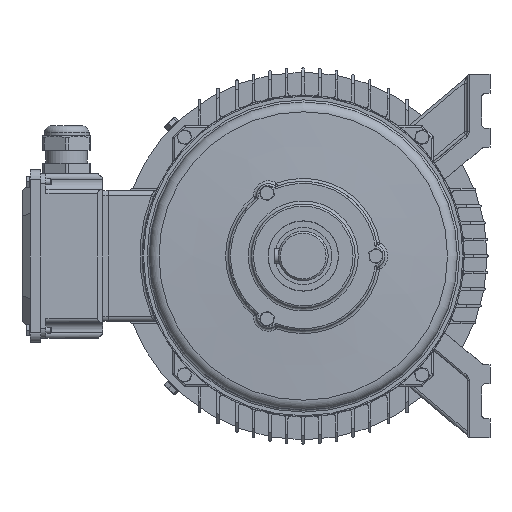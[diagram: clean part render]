
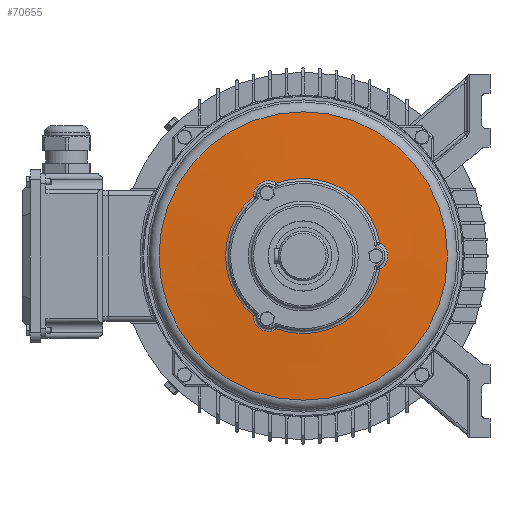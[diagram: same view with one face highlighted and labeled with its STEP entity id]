
A CAD part, left-side view. The second image highlights one B-rep face of the part: STEP entity #70655.
In plain terms, the highlighted conical face has half-angle 87 degrees and reference radius 110.25 mm.
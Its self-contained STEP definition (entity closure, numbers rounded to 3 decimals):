
#70436=CARTESIAN_POINT('',(136.149,47.992,-57.431));
#70437=VERTEX_POINT('',#70436);
#70445=CARTESIAN_POINT('',(136.149,25.741,-70.277));
#70446=VERTEX_POINT('',#70445);
#70447=CARTESIAN_POINT('',(136.149,47.992,-57.431));
#70448=CARTESIAN_POINT('',(136.211,48.041,-58.92));
#70449=CARTESIAN_POINT('',(136.321,47.676,-61.934));
#70450=CARTESIAN_POINT('',(136.437,45.794,-66.061));
#70451=CARTESIAN_POINT('',(136.497,42.727,-69.436));
#70452=CARTESIAN_POINT('',(136.498,37.478,-72.479));
#70453=CARTESIAN_POINT('',(136.378,31.212,-72.874));
#70454=CARTESIAN_POINT('',(136.211,27.006,-71.065));
#70455=CARTESIAN_POINT('',(136.149,25.741,-70.277));
#70456=B_SPLINE_CURVE_WITH_KNOTS('',3,(#70447,#70448,#70449,#70450,#70451,#70452,#70453,#70454,#70455),.UNSPECIFIED.,.F.,.U.,(4,1,1,1,1,1,4),(-3.136,-2.688,-2.24,-1.792,-1.344,-0.448,0.0),.UNSPECIFIED.);
#70457=EDGE_CURVE('',#70437,#70446,#70456,.T.);
#70561=CARTESIAN_POINT('',(136.149,-73.732,-12.847));
#70562=VERTEX_POINT('',#70561);
#70563=CARTESIAN_POINT('',(136.149,0.0,0.));
#70564=DIRECTION('',(-1.0,0.0,0.0));
#70565=DIRECTION('',(0.0,-1.0,0.0));
#70566=AXIS2_PLACEMENT_3D('',#70563,#70564,#70565);
#70567=CIRCLE('',#70566,74.843);
#70568=EDGE_CURVE('',#70446,#70562,#70567,.T.);
#70589=CARTESIAN_POINT('',(138.005,0.0,0.0));
#70590=DIRECTION('',(1.0,0.0,0.0));
#70591=DIRECTION('',(0.0,1.0,0.0));
#70592=AXIS2_PLACEMENT_3D('',#70589,#70590,#70591);
#70593=CONICAL_SURFACE('',#70592,110.25,87.);
#70594=CARTESIAN_POINT('',(139.513,139.023,0.0));
#70595=VERTEX_POINT('',#70594);
#70596=CARTESIAN_POINT('',(139.513,0.0,0.0));
#70597=DIRECTION('',(1.0,0.0,0.0));
#70598=DIRECTION('',(0.0,-1.0,0.0));
#70599=AXIS2_PLACEMENT_3D('',#70596,#70597,#70598);
#70600=CIRCLE('',#70599,139.023);
#70601=EDGE_CURVE('',#70595,#70595,#70600,.T.);
#70602=ORIENTED_EDGE('',*,*,#70601,.F.);
#70603=EDGE_LOOP('',(#70602));
#70604=FACE_OUTER_BOUND('',#70603,.T.);
#70605=ORIENTED_EDGE('',*,*,#70457,.F.);
#70606=CARTESIAN_POINT('',(136.149,47.992,57.431));
#70607=VERTEX_POINT('',#70606);
#70608=CARTESIAN_POINT('',(136.149,0.0,0.));
#70609=DIRECTION('',(-1.0,0.0,0.0));
#70610=DIRECTION('',(0.0,-1.0,0.0));
#70611=AXIS2_PLACEMENT_3D('',#70608,#70609,#70610);
#70612=CIRCLE('',#70611,74.843);
#70613=EDGE_CURVE('',#70607,#70437,#70612,.T.);
#70614=ORIENTED_EDGE('',*,*,#70613,.F.);
#70615=CARTESIAN_POINT('',(136.149,25.741,70.277));
#70616=VERTEX_POINT('',#70615);
#70617=CARTESIAN_POINT('',(136.149,25.741,70.277));
#70618=CARTESIAN_POINT('',(136.211,27.006,71.065));
#70619=CARTESIAN_POINT('',(136.321,29.799,72.255));
#70620=CARTESIAN_POINT('',(136.437,34.312,72.688));
#70621=CARTESIAN_POINT('',(136.497,38.773,71.72));
#70622=CARTESIAN_POINT('',(136.497,42.71,69.451));
#70623=CARTESIAN_POINT('',(136.438,45.78,66.076));
#70624=CARTESIAN_POINT('',(136.322,47.673,61.953));
#70625=CARTESIAN_POINT('',(136.211,48.041,58.92));
#70626=CARTESIAN_POINT('',(136.149,47.992,57.431));
#70627=B_SPLINE_CURVE_WITH_KNOTS('',3,(#70617,#70618,#70619,#70620,#70621,#70622,#70623,#70624,#70625,#70626),.UNSPECIFIED.,.F.,.U.,(4,1,1,1,1,1,1,4),(-3.136,-2.688,-2.24,-1.792,-1.344,-0.896,-0.448,0.0),.UNSPECIFIED.);
#70628=EDGE_CURVE('',#70616,#70607,#70627,.T.);
#70629=ORIENTED_EDGE('',*,*,#70628,.F.);
#70630=CARTESIAN_POINT('',(136.149,-73.732,12.847));
#70631=VERTEX_POINT('',#70630);
#70632=CARTESIAN_POINT('',(136.149,0.0,0.));
#70633=DIRECTION('',(-1.0,0.0,0.0));
#70634=DIRECTION('',(0.0,-1.0,0.0));
#70635=AXIS2_PLACEMENT_3D('',#70632,#70633,#70634);
#70636=CIRCLE('',#70635,74.843);
#70637=EDGE_CURVE('',#70631,#70616,#70636,.T.);
#70638=ORIENTED_EDGE('',*,*,#70637,.F.);
#70639=CARTESIAN_POINT('',(136.149,-73.732,-12.847));
#70640=CARTESIAN_POINT('',(136.211,-75.047,-12.145));
#70641=CARTESIAN_POINT('',(136.321,-77.475,-10.321));
#70642=CARTESIAN_POINT('',(136.437,-80.106,-6.629));
#70643=CARTESIAN_POINT('',(136.497,-81.498,-2.281));
#70644=CARTESIAN_POINT('',(136.497,-81.501,2.262));
#70645=CARTESIAN_POINT('',(136.438,-80.114,6.608));
#70646=CARTESIAN_POINT('',(136.322,-77.489,10.31));
#70647=CARTESIAN_POINT('',(136.211,-75.047,12.145));
#70648=CARTESIAN_POINT('',(136.149,-73.732,12.847));
#70649=B_SPLINE_CURVE_WITH_KNOTS('',3,(#70639,#70640,#70641,#70642,#70643,#70644,#70645,#70646,#70647,#70648),.UNSPECIFIED.,.F.,.U.,(4,1,1,1,1,1,1,4),(-3.136,-2.688,-2.24,-1.792,-1.344,-0.896,-0.448,0.0),.UNSPECIFIED.);
#70650=EDGE_CURVE('',#70562,#70631,#70649,.T.);
#70651=ORIENTED_EDGE('',*,*,#70650,.F.);
#70652=ORIENTED_EDGE('',*,*,#70568,.F.);
#70653=EDGE_LOOP('',(#70605,#70614,#70629,#70638,#70651,#70652));
#70654=FACE_BOUND('',#70653,.T.);
#70655=ADVANCED_FACE('',(#70604,#70654),#70593,.T.);
